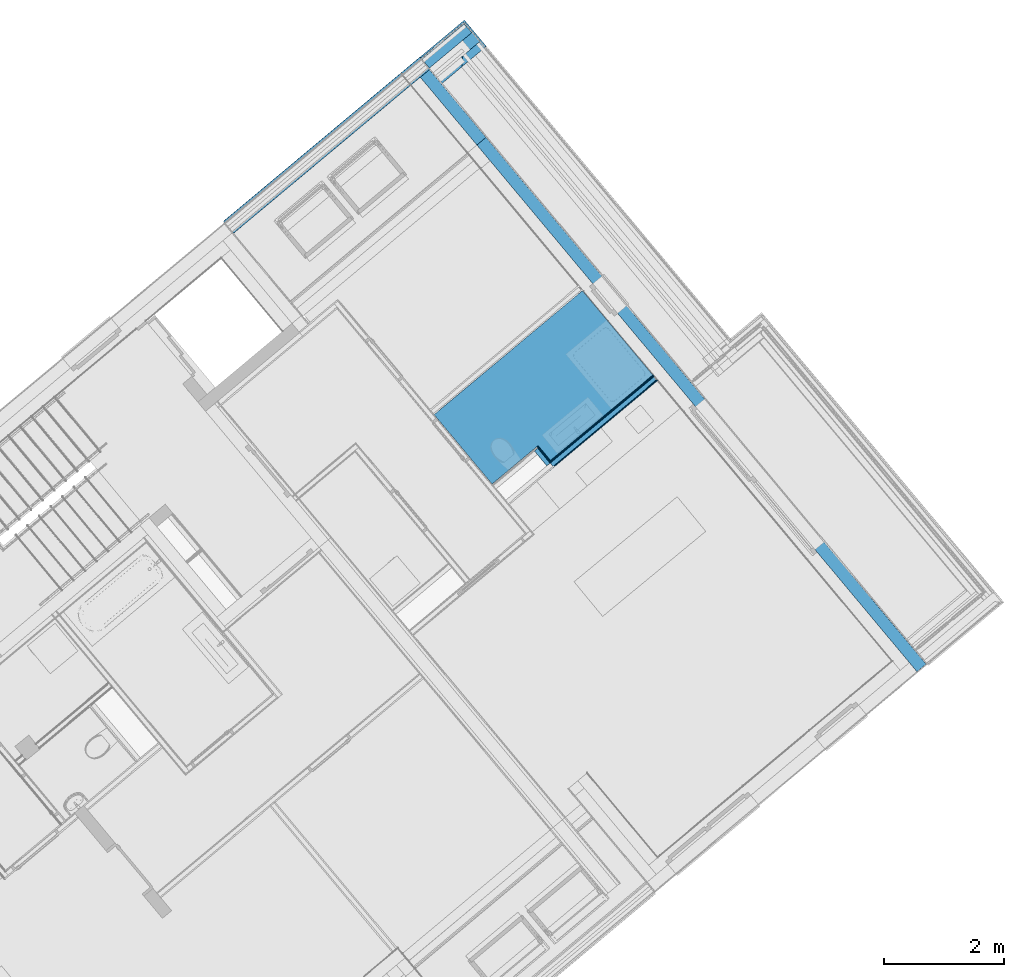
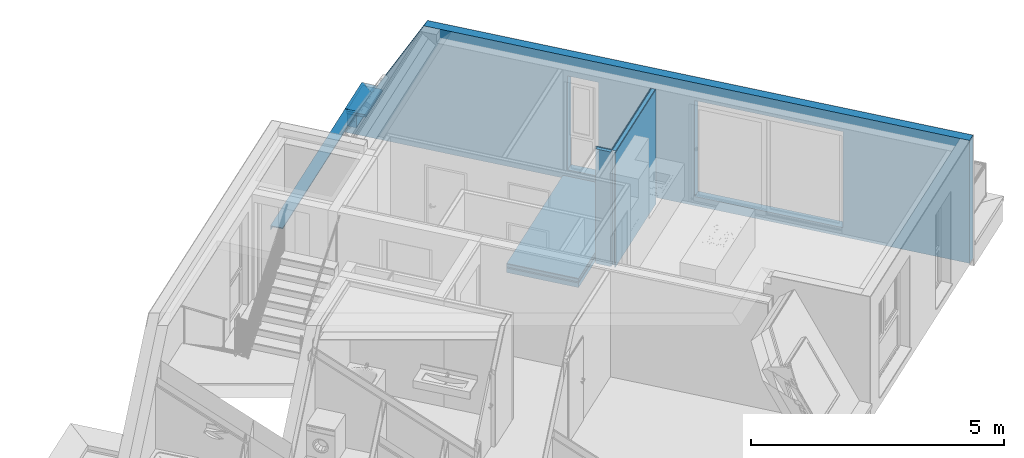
# One storey, part 36 of 58: 18 building element parts, 2 openings, 6 elements without a shape of their own.
"""IFC4 building model written with IfcOpenShell, lengths in metres."""

from ifc_helpers import new_model, entity, si_unit, converted_unit, derived_unit, direction, frame, origin_with_axes, place, context, subcontext, project, spatial, polygons, material, type_object, element, aggregate, save


model = new_model("IFC4")

# Units and contexts
model_context = context("Model", 3, precision=1e-05, world=origin_with_axes(), true_north=direction((0.0, 1.0)))
body_context = subcontext(model_context, "Body", "Model", "MODEL_VIEW")
ifc_project = project(units=[si_unit("LENGTHUNIT", "METRE"), si_unit("AREAUNIT", "SQUARE_METRE"), si_unit("VOLUMEUNIT", "CUBIC_METRE"), converted_unit("PLANEANGLEUNIT", "DEGREE", entity("IfcPlaneAngleMeasure", 0.0174532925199), si_unit("PLANEANGLEUNIT", "RADIAN"), dimensions=[0, 0, 0, 0, 0, 0, 0]), converted_unit("TIMEUNIT", "Year", entity("IfcTimeMeasure", 31556926.0), si_unit("TIMEUNIT", "SECOND"), dimensions=[0, 0, 1, 0, 0, 0, 0]), si_unit("MASSUNIT", "GRAM", prefix="KILO"), si_unit("THERMODYNAMICTEMPERATUREUNIT", "DEGREE_CELSIUS"), si_unit("LUMINOUSINTENSITYUNIT", "LUMEN"), si_unit("ENERGYUNIT", "JOULE", prefix="MEGA"), derived_unit("THERMALCONDUCTANCEUNIT", [(si_unit("POWERUNIT", "WATT"), 1), (si_unit("LENGTHUNIT", "METRE"), -1), (si_unit("THERMODYNAMICTEMPERATUREUNIT", "KELVIN"), -1)]), derived_unit("SPECIFICHEATCAPACITYUNIT", [(si_unit("ENERGYUNIT", "JOULE"), 1), (si_unit("MASSUNIT", "GRAM", prefix="KILO"), -1), (si_unit("THERMODYNAMICTEMPERATUREUNIT", "KELVIN"), -1)]), derived_unit("MASSDENSITYUNIT", [(si_unit("MASSUNIT", "GRAM", prefix="KILO"), 1), (si_unit("VOLUMEUNIT", "CUBIC_METRE"), -1)])], contexts=[model_context])

# Site, building, storey
site_placement = place(None, frame((-0.00153261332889, -0.00661245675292, 0.0), z_axis=(0.0, 0.0, 1.0), x_axis=(1.0, 0.0, 0.0)))
site = spatial("IfcSite", under=ifc_project, at=site_placement, Name="Site", CompositionType="ELEMENT")
building_placement = place(site_placement, origin_with_axes())
building = spatial("IfcBuilding", under=site, at=building_placement, Name="Building", CompositionType="ELEMENT")
storey_placement = place(building_placement, frame((0.0, 0.0, 5.7), z_axis=(0.0, 0.0, 1.0), x_axis=(1.0, 0.0, 0.0)))
storey = spatial("IfcBuildingStorey", under=building, at=storey_placement, Name="DG1", CompositionType="ELEMENT", Elevation=5.7)

# Wall, openings, building element part
wall_type_1 = type_object("IfcWallType", Name="AW EG 420", PredefinedType="NOTDEFINED")
wall_1_placement = place(storey_placement, frame((4.93944032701, 30.401277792, 0.0), z_axis=(0.0, 0.0, 1.0), x_axis=(0.641209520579, -0.767365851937, 0.0)))
wall_1 = element("IfcWall", 1, at=wall_1_placement, inside=storey, type_object=wall_type_1, Name="Wand-002", PredefinedType="NOTDEFINED")
opening_1_placement = place(wall_1_placement, frame((5.05174494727, 0.0, 0.22), z_axis=(0.0, 0.0, 1.0), x_axis=(1.0, 0.0, 0.0)))
element("IfcOpeningElement", 2, at=opening_1_placement, cuts=wall_1, Name="Fenster-001", context=body_context, identifier="Reference", shape_type="Tessellation", body=[
    polygons([(-0.325, -0.215, 0.0), (-0.325, -0.215, 2.26), (-0.325, 6.49162461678, 2.26), (-0.325, 6.49162461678, 0.0), (-0.325, -6.91162461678, 0.0), (-0.325, -6.91162461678, 2.26), (0.325, -0.215, 2.26), (0.325, 6.49162461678, 2.26), (0.325, -6.91162461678, 2.26), (0.325, 6.49162461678, 0.0), (0.325, -0.215, 0.0), (0.325, -6.91162461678, 0.0)], [[[1, 2, 3, 4]], [[2, 1, 5, 6]], [[7, 8, 3, 2, 6, 9]], [[8, 10, 4, 3]], [[1, 4, 10, 11, 12, 5]], [[6, 5, 12, 9]], [[7, 11, 10, 8]], [[11, 7, 9, 12]]], closed=True),
])
opening_2_placement = place(wall_1_placement, frame((8.96052367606, 0.0, 0.22), z_axis=(0.0, 0.0, 1.0), x_axis=(1.0, 0.0, 0.0)))
element("IfcOpeningElement", 3, at=opening_2_placement, cuts=wall_1, Name="Tür-001", context=body_context, identifier="Reference", shape_type="Tessellation", body=[
    polygons([(-1.56, -0.215, 2.31), (1.56, -0.215, 2.31), (1.56, 6.49162461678, 2.31), (-1.56, 6.49162461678, 2.31), (1.61, -0.215, -0.22), (-1.61, -0.215, -0.22), (-1.61, -0.215, 2.36), (1.61, -0.215, 2.36), (1.56, -0.215, 0.0), (-1.56, -0.215, 0.0), (1.56, 6.49162461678, 0.0), (-1.56, 6.49162461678, 0.0), (1.61, -6.91162461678, -0.22), (-1.61, -6.91162461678, -0.22), (-1.61, -6.91162461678, 2.36), (1.61, -6.91162461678, 2.36)], [[[1, 2, 3, 4]], [[5, 6, 7, 8], [9, 2, 1, 10]], [[2, 9, 11, 3]], [[3, 11, 12, 4]], [[10, 1, 4, 12]], [[6, 5, 13, 14]], [[7, 6, 14, 15]], [[8, 7, 15, 16]], [[5, 8, 16, 13]], [[9, 10, 12, 11]], [[15, 14, 13, 16]]], closed=True),
])
ifc_material_1 = material(Name="EPS 1")
building_element_part_1_placement = place(wall_1_placement, origin_with_axes())
building_element_part_1 = element("IfcBuildingElementPart", 4, at=building_element_part_1_placement, material=ifc_material_1, Name="EPS 1", PredefinedType="NOTDEFINED", context=body_context, shape_type="Tessellation", body=[
    polygons([(13.1763326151, -0.215, 0.0), (13.1763326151, -0.215, 2.96), (1.70895679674, -0.215, 2.96), (0.0, -0.215, 0.0), (4.72674494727, -0.215, 2.48), (5.37674494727, -0.215, 2.48), (5.37674494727, -0.215, 0.22), (4.72674494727, -0.215, 0.22), (7.40052367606, -0.215, 0.22), (7.40052367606, -0.215, 2.53), (10.5205236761, -0.215, 2.53), (10.5205236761, -0.215, 0.22), (13.1762023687, -0.015, 0.0), (13.1762023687, -0.015, 2.96), (1.70895679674, -0.015, 2.96), (0.0, -0.015, 0.0), (5.37674494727, -0.015, 2.48), (4.72674494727, -0.015, 2.48), (5.37674494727, -0.015, 0.22), (4.72674494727, -0.015, 0.22), (7.40052367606, -0.015, 0.22), (7.40052367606, -0.015, 2.53), (10.5205236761, -0.015, 2.53), (10.5205236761, -0.015, 0.22)], [[[1, 2, 3, 4], [5, 6, 7, 8], [9, 10, 11, 12]], [[13, 14, 2, 1]], [[2, 14, 15, 3]], [[16, 4, 3, 15]], [[13, 1, 4, 16]], [[17, 6, 5, 18]], [[19, 7, 6, 17]], [[20, 8, 7, 19]], [[18, 5, 8, 20]], [[21, 22, 10, 9]], [[22, 23, 11, 10]], [[23, 24, 12, 11]], [[24, 21, 9, 12]], [[14, 13, 16, 15], [19, 17, 18, 20], [21, 24, 23, 22]]], closed=True),
])
aggregate(wall_1, [building_element_part_1])

# Wall, building element parts
wall_type_2 = type_object("IfcWallType", Name="LB 10,5 cm doppelte Vorsatzschale Bad 105", PredefinedType="NOTDEFINED")
wall_2_placement = place(storey_placement, frame((6.81308887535, 23.8632838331, 0.0), z_axis=(0.0, 0.0, 1.0), x_axis=(0.639370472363, -0.768898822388, 0.0)))
wall_2 = element("IfcWall", 5, at=wall_2_placement, inside=storey, type_object=wall_type_2, Name="Wand-004", PredefinedType="NOTDEFINED")
ifc_material_2 = material(Name="Gipskarton")
building_element_part_2_placement = place(wall_2_placement, origin_with_axes())
building_element_part_2 = element("IfcBuildingElementPart", 6, at=building_element_part_2_placement, material=ifc_material_2, Name="Gipskarton", PredefinedType="NOTDEFINED", context=body_context, shape_type="Tessellation", body=[
    polygons([(0.338014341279, 0.09, 0.0), (0.0, 0.09, 0.0), (0.0, 0.105, 0.0), (0.337978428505, 0.105, 0.0), (0.338014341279, 0.09, 2.76), (0.0, 0.09, 2.76), (0.0, 0.105, 2.76), (0.337978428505, 0.105, 2.76)], [[[1, 2, 3, 4]], [[5, 6, 2, 1]], [[3, 2, 6, 7]], [[4, 3, 7, 8]], [[4, 8, 5, 1]], [[8, 7, 6, 5]]], closed=True),
])
building_element_part_3_placement = place(wall_2_placement, origin_with_axes())
building_element_part_3 = element("IfcBuildingElementPart", 7, at=building_element_part_3_placement, material=ifc_material_2, Name="Gipskarton", PredefinedType="NOTDEFINED", context=body_context, shape_type="Tessellation", body=[
    polygons([(0.353050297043, 0.075, 0.0), (0.0, 0.075, 0.0), (0.0, 0.09, 0.0), (0.35301438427, 0.09, 0.0), (0.353050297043, 0.075, 2.76), (0.0, 0.075, 2.76), (0.0, 0.09, 2.76), (0.35301438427, 0.09, 2.76)], [[[1, 2, 3, 4]], [[5, 6, 2, 1]], [[3, 2, 6, 7]], [[4, 3, 7, 8]], [[4, 8, 5, 1]], [[8, 7, 6, 5]]], closed=True),
])
ifc_material_3 = material(Name="Mineralwolle weich")
building_element_part_4_placement = place(wall_2_placement, origin_with_axes())
building_element_part_4 = element("IfcBuildingElementPart", 8, at=building_element_part_4_placement, material=ifc_material_3, Name="Mineralwolle weich", PredefinedType="NOTDEFINED", context=body_context, shape_type="Tessellation", body=[
    polygons([(0.353050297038, 0.075, 0.0), (0.353229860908, 0.0, 0.0), (0.030000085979, 0.0, 0.0), (0.0298205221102, 0.075, 0.0), (0.353050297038, 0.075, 2.76), (0.353229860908, 0.0, 2.76), (0.030000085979, 0.0, 2.76), (0.0298205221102, 0.075, 2.76)], [[[1, 2, 3, 4]], [[2, 1, 5, 6]], [[2, 6, 7, 3]], [[8, 4, 3, 7]], [[5, 1, 4, 8]], [[6, 5, 8, 7]]], closed=True),
])
aggregate(wall_2, [building_element_part_2, building_element_part_3, building_element_part_4])

wall_type_3 = type_object("IfcWallType", Name="LB 13 cm doppelte Vorsatzschale Bad  120", PredefinedType="NOTDEFINED")
wall_3_placement = place(storey_placement, frame((7.01975244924, 23.6147528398, 0.0), z_axis=(0.0, 0.0, 1.0), x_axis=(0.767365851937, 0.641209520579, 0.0)))
wall_3 = element("IfcWall", 9, at=wall_3_placement, inside=storey, type_object=wall_type_3, Name="Wand-013", PredefinedType="NOTDEFINED")
building_element_part_5_placement = place(wall_3_placement, origin_with_axes())
building_element_part_5 = element("IfcBuildingElementPart", 10, at=building_element_part_5_placement, material=ifc_material_2, Name="Gipskarton", PredefinedType="NOTDEFINED", context=body_context, shape_type="Tessellation", body=[
    polygons([(2.33522392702, 0.0, 0.0), (2.33522392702, -0.015, 0.0), (0.10496438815, -0.015, 0.0), (0.105000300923, 0.0, 0.0), (2.33522392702, 0.0, 2.76), (2.33522392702, -0.015, 2.76), (0.10496438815, -0.015, 2.76), (0.105000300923, 0.0, 2.76)], [[[1, 2, 3, 4]], [[2, 1, 5, 6]], [[2, 6, 7, 3]], [[8, 4, 3, 7]], [[5, 1, 4, 8]], [[6, 5, 8, 7]]], closed=True),
])
building_element_part_6_placement = place(wall_3_placement, origin_with_axes())
building_element_part_6 = element("IfcBuildingElementPart", 11, at=building_element_part_6_placement, material=ifc_material_2, Name="Gipskarton", PredefinedType="NOTDEFINED", context=body_context, shape_type="Tessellation", body=[
    polygons([(2.33522392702, -0.015, 0.0), (2.33522392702, -0.03, 0.0), (0.0899284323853, -0.03, 0.0), (0.0899643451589, -0.015, 0.0), (2.33522392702, -0.015, 2.76), (2.33522392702, -0.03, 2.76), (0.0899284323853, -0.03, 2.76), (0.0899643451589, -0.015, 2.76)], [[[1, 2, 3, 4]], [[2, 1, 5, 6]], [[2, 6, 7, 3]], [[8, 4, 3, 7]], [[5, 1, 4, 8]], [[6, 5, 8, 7]]], closed=True),
])
building_element_part_7_placement = place(wall_3_placement, origin_with_axes())
building_element_part_7 = element("IfcBuildingElementPart", 12, at=building_element_part_7_placement, material=ifc_material_3, Name="Mineralwolle weich", PredefinedType="NOTDEFINED", context=body_context, shape_type="Tessellation", body=[
    polygons([(2.33522392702, -0.03, 0.0), (2.33522392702, -0.105, 0.0), (0.0747488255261, -0.105, 0.0), (0.0749283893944, -0.03, 0.0), (2.33522392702, -0.03, 2.76), (2.33522392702, -0.105, 2.76), (0.0747488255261, -0.105, 2.76), (0.0749283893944, -0.03, 2.76)], [[[1, 2, 3, 4]], [[2, 1, 5, 6]], [[2, 6, 7, 3]], [[8, 4, 3, 7]], [[5, 1, 4, 8]], [[6, 5, 8, 7]]], closed=True),
])
ifc_material_4 = material(Name="Gipsputz")
building_element_part_8_placement = place(wall_3_placement, origin_with_axes())
building_element_part_8 = element("IfcBuildingElementPart", 13, at=building_element_part_8_placement, material=ifc_material_4, Name="Gipsputz", PredefinedType="NOTDEFINED", context=body_context, shape_type="Tessellation", body=[
    polygons([(2.33522392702, -0.105, 0.0), (2.33522392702, -0.12, 0.0), (-0.000287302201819, -0.12, 0.0), (-0.000251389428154, -0.105, 0.0), (2.33522392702, -0.105, 2.76), (2.33522392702, -0.12, 2.76), (-0.000287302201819, -0.12, 2.76), (-0.000251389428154, -0.105, 2.76)], [[[1, 2, 3, 4]], [[2, 1, 5, 6]], [[2, 6, 7, 3]], [[8, 4, 3, 7]], [[5, 1, 4, 8]], [[6, 5, 8, 7]]], closed=True),
])
aggregate(wall_3, [building_element_part_5, building_element_part_6, building_element_part_7, building_element_part_8])

# Covering, building element parts
covering_type = type_object("IfcCoveringType", Name="DE 01 Decke Wohnung/Wohnung Fließen 220", PredefinedType="NOTDEFINED")
covering_placement = place(storey_placement, frame((5.15478771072, 24.448579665, 0.22), z_axis=(0.0, 0.0, 1.0), x_axis=(1.0, 0.0, 0.0)))
covering = element("IfcCovering", 14, at=covering_placement, inside=storey, type_object=covering_type, Name="Decke-001", PredefinedType="NOTDEFINED")
ifc_material_5 = material(Name="Fliesen")
building_element_part_9_placement = place(covering_placement, origin_with_axes())
building_element_part_9 = element("IfcBuildingElementPart", 15, at=building_element_part_9_placement, material=ifc_material_5, Name="Fliesen", PredefinedType="NOTDEFINED", context=body_context, shape_type="Tessellation", body=[
    polygons([(0.969800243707, -1.16060595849, 0.0), (0.969800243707, -1.16060595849, -0.015), (1.71585376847, -0.537204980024, -0.015), (1.71585376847, -0.537204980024, 0.0), (0.0, 0.0, 0.0), (0.0, 0.0, -0.015), (2.47987817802, 2.07218172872, -0.015), (3.65693583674, 0.663540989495, -0.015), (1.94553838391, -0.766499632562, -0.015), (1.75805597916, -0.54103567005, -0.015), (1.75811086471, -0.540989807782, -0.015), (1.73903554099, -0.518161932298, -0.015), (1.71596857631, -0.537343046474, -0.015), (1.71596857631, -0.537343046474, 0.0), (1.73903554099, -0.518161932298, 0.0), (1.75811086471, -0.540989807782, 0.0), (1.75805597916, -0.54103567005, 0.0), (1.94553838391, -0.766499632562, 0.0), (3.65693583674, 0.663540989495, 0.0), (2.47987817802, 2.07218172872, 0.0)], [[[1, 2, 3, 4]], [[2, 1, 5, 6]], [[3, 2, 6, 7, 8, 9, 10, 11, 12, 13]], [[13, 14, 4, 3]], [[1, 4, 14, 15, 16, 17, 18, 19, 20, 5]], [[6, 5, 20, 7]], [[19, 8, 7, 20]], [[18, 9, 8, 19]], [[9, 18, 17, 10]], [[10, 17, 16, 11]], [[16, 15, 12, 11]], [[14, 13, 12, 15]]], closed=True),
])
ifc_material_6 = material(Name="Estrich")
building_element_part_10_placement = place(covering_placement, origin_with_axes())
building_element_part_10 = element("IfcBuildingElementPart", 16, at=building_element_part_10_placement, material=ifc_material_6, Name="Estrich", PredefinedType="NOTDEFINED", context=body_context, shape_type="Tessellation", body=[
    polygons([(0.969800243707, -1.16060595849, -0.015), (0.969800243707, -1.16060595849, -0.08), (1.71585376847, -0.537204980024, -0.08), (1.71585376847, -0.537204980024, -0.015), (0.0, 0.0, -0.015), (0.0, 0.0, -0.08), (2.47987817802, 2.07218172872, -0.08), (3.65693583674, 0.663540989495, -0.08), (1.94553838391, -0.766499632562, -0.08), (1.75805597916, -0.54103567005, -0.08), (1.75811086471, -0.540989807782, -0.08), (1.73903554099, -0.518161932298, -0.08), (1.71596857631, -0.537343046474, -0.08), (1.71596857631, -0.537343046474, -0.015), (1.73903554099, -0.518161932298, -0.015), (1.75811086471, -0.540989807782, -0.015), (1.75805597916, -0.54103567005, -0.015), (1.94553838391, -0.766499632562, -0.015), (3.65693583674, 0.663540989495, -0.015), (2.47987817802, 2.07218172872, -0.015)], [[[1, 2, 3, 4]], [[2, 1, 5, 6]], [[3, 2, 6, 7, 8, 9, 10, 11, 12, 13]], [[13, 14, 4, 3]], [[1, 4, 14, 15, 16, 17, 18, 19, 20, 5]], [[6, 5, 20, 7]], [[19, 8, 7, 20]], [[18, 9, 8, 19]], [[9, 18, 17, 10]], [[10, 17, 16, 11]], [[16, 15, 12, 11]], [[14, 13, 12, 15]]], closed=True),
])
ifc_material_7 = material(Name="Trittschalldämmung")
building_element_part_11_placement = place(covering_placement, origin_with_axes())
building_element_part_11 = element("IfcBuildingElementPart", 17, at=building_element_part_11_placement, material=ifc_material_7, Name="Trittschalldämmung", PredefinedType="NOTDEFINED", context=body_context, shape_type="Tessellation", body=[
    polygons([(0.969800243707, -1.16060595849, -0.08), (0.969800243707, -1.16060595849, -0.11), (1.71585376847, -0.537204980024, -0.11), (1.71585376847, -0.537204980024, -0.08), (0.0, 0.0, -0.08), (0.0, 0.0, -0.11), (2.47987817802, 2.07218172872, -0.11), (3.65693583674, 0.663540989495, -0.11), (1.94553838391, -0.766499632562, -0.11), (1.75805597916, -0.54103567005, -0.11), (1.75811086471, -0.540989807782, -0.11), (1.73903554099, -0.518161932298, -0.11), (1.71596857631, -0.537343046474, -0.11), (1.71596857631, -0.537343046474, -0.08), (1.73903554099, -0.518161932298, -0.08), (1.75811086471, -0.540989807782, -0.08), (1.75805597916, -0.54103567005, -0.08), (1.94553838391, -0.766499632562, -0.08), (3.65693583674, 0.663540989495, -0.08), (2.47987817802, 2.07218172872, -0.08)], [[[1, 2, 3, 4]], [[2, 1, 5, 6]], [[3, 2, 6, 7, 8, 9, 10, 11, 12, 13]], [[13, 14, 4, 3]], [[1, 4, 14, 15, 16, 17, 18, 19, 20, 5]], [[6, 5, 20, 7]], [[19, 8, 7, 20]], [[18, 9, 8, 19]], [[9, 18, 17, 10]], [[10, 17, 16, 11]], [[16, 15, 12, 11]], [[14, 13, 12, 15]]], closed=True),
])
ifc_material_8 = material(Name="Schüttung")
building_element_part_12_placement = place(covering_placement, origin_with_axes())
building_element_part_12 = element("IfcBuildingElementPart", 18, at=building_element_part_12_placement, material=ifc_material_8, Name="Schüttung", PredefinedType="NOTDEFINED", context=body_context, shape_type="Tessellation", body=[
    polygons([(0.969800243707, -1.16060595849, -0.11), (0.969800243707, -1.16060595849, -0.22), (1.71585376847, -0.537204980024, -0.22), (1.71585376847, -0.537204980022, -0.11), (0.0, 0.0, -0.11), (0.0, 0.0, -0.22), (2.47987817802, 2.07218172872, -0.22), (3.65693583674, 0.663540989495, -0.22), (1.94553838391, -0.766499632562, -0.22), (1.75805597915, -0.541035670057, -0.22), (1.75811086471, -0.540989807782, -0.22), (1.73903554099, -0.518161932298, -0.22), (1.71596857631, -0.537343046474, -0.22), (1.71596857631, -0.537343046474, -0.11), (1.73903554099, -0.518161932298, -0.11), (1.75811086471, -0.540989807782, -0.11), (1.75805597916, -0.54103567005, -0.11), (1.94553838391, -0.766499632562, -0.11), (3.65693583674, 0.663540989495, -0.11), (2.47987817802, 2.07218172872, -0.11)], [[[1, 2, 3, 4]], [[2, 1, 5, 6]], [[3, 2, 6, 7, 8, 9, 10, 11, 12, 13]], [[3, 13, 14, 4]], [[1, 4, 14, 15, 16, 17, 18, 19, 20, 5]], [[6, 5, 20, 7]], [[19, 8, 7, 20]], [[18, 9, 8, 19]], [[9, 18, 17, 10]], [[11, 10, 17, 16]], [[12, 11, 16, 15]], [[14, 13, 12, 15]]], closed=True),
])
aggregate(covering, [building_element_part_9, building_element_part_10, building_element_part_11, building_element_part_12])

# Wall, building element parts
wall_type_4 = type_object("IfcWallType", Name="Bauteil - Attika Abschluss wand 264 x 407", PredefinedType="NOTDEFINED")
wall_4_placement = place(storey_placement, frame((5.07730260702, 30.2362960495, -0.2), z_axis=(0.0, 0.0, 1.0), x_axis=(-0.767365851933, -0.641209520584, 0.0)))
wall_4 = element("IfcWall", 19, at=wall_4_placement, inside=storey, type_object=wall_type_4, Name="Wand-002", PredefinedType="NOTDEFINED")
ifc_material_9 = material(Name="Stahl")
building_element_part_13_placement = place(wall_4_placement, origin_with_axes())
building_element_part_13 = element("IfcBuildingElementPart", 20, at=building_element_part_13_placement, material=ifc_material_9, Name="Stahl", PredefinedType="NOTDEFINED", context=body_context, shape_type="Tessellation", body=[
    polygons([(4.2801343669, -0.244007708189, 0.59962516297), (4.2801343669, 0.0197167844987, 0.607483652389), (0.0, 0.0197167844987, 0.607483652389), (0.0, -0.244007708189, 0.59962516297), (4.2801343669, -0.237415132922, 0.499843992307), (4.2801343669, -0.236396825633, 0.498951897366), (4.2801343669, -0.22785172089, 0.508706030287), (4.2801343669, -0.228826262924, 0.509648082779), (4.2801343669, -0.236153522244, 0.501284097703), (4.2801343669, -0.242570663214, 0.598313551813), (4.2801343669, -0.241694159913, 0.598339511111), (4.2801343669, 0.0197570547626, 0.606129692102), (0.0, 0.0197570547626, 0.606129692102), (0.0, -0.241694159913, 0.598339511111), (0.0, -0.242570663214, 0.598313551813), (0.0, -0.236153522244, 0.501284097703), (0.0, -0.228826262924, 0.509648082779), (0.0, -0.22785172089, 0.508706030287), (0.0, -0.236396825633, 0.498951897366), (0.0, -0.237415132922, 0.499843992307)], [[[1, 2, 3, 4]], [[1, 5, 6, 7, 8, 9, 10, 11, 12, 2]], [[2, 12, 13, 3]], [[4, 3, 13, 14, 15, 16, 17, 18, 19, 20]], [[5, 1, 4, 20]], [[6, 5, 20, 19]], [[7, 6, 19, 18]], [[8, 7, 18, 17]], [[9, 8, 17, 16]], [[10, 9, 16, 15]], [[11, 10, 15, 14]], [[12, 11, 14, 13]]], closed=True),
])
ifc_material_10 = material(Name="Holzwerkstoff")
building_element_part_14_placement = place(wall_4_placement, origin_with_axes())
building_element_part_14 = element("IfcBuildingElementPart", 21, at=building_element_part_14_placement, material=ifc_material_10, Name="Holzwerkstoff", PredefinedType="NOTDEFINED", context=body_context, shape_type="Tessellation", body=[
    polygons([(4.2801343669, 0.0203906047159, 0.585743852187), (4.2801343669, -0.0192371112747, 0.584512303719), (0.0, -0.0192371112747, 0.584512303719), (0.0, 0.0203906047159, 0.585743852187), (4.2801343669, 0.0197570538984, 0.606129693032), (4.2801343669, -0.241694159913, 0.598339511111), (4.2801343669, -0.241050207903, 0.577618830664), (4.2801343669, -0.190021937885, 0.579204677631), (4.2801343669, -0.130124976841, 0.581066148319), (4.2801343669, -0.0789260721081, 0.582657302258), (0.0, -0.0789260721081, 0.582657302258), (0.0, -0.130124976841, 0.581066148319), (0.0, -0.190021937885, 0.579204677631), (0.0, -0.241050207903, 0.577618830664), (0.0, -0.241694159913, 0.598339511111), (0.0, 0.0197570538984, 0.606129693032)], [[[1, 2, 3, 4]], [[1, 5, 6, 7, 8, 9, 10, 2]], [[2, 10, 11, 3]], [[4, 3, 11, 12, 13, 14, 15, 16]], [[5, 1, 4, 16]], [[6, 5, 16, 15]], [[7, 6, 15, 14]], [[8, 7, 14, 13]], [[9, 8, 13, 12]], [[10, 9, 12, 11]]], closed=True),
])
aggregate(wall_4, [building_element_part_13, building_element_part_14])

wall_type_5 = type_object("IfcWallType", Name="Bauteil - Attika Terrasse 1.DG 574 x 410", PredefinedType="NOTDEFINED")
wall_5_placement = place(storey_placement, frame((5.07730037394, 30.2362941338, -0.2), z_axis=(0.0, 0.0, 1.0), x_axis=(0.767365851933, 0.641209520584, 0.0)))
wall_5 = element("IfcWall", 22, at=wall_5_placement, inside=storey, type_object=wall_type_5, Name="Wand-002", PredefinedType="NOTDEFINED")
building_element_part_15_placement = place(wall_5_placement, origin_with_axes())
building_element_part_15 = element("IfcBuildingElementPart", 23, at=building_element_part_15_placement, material=ifc_material_1, Name="EPS 1", PredefinedType="NOTDEFINED", context=body_context, shape_type="Tessellation", body=[
    polygons([(0.92319039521, 2.39907649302e-10, 0.498822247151), (0.92319039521, 2.39907649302e-10, 0.499999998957), (0.0, 2.39911202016e-10, 0.499999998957), (0.0, 2.39911202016e-10, 0.2), (0.92319039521, 2.39907649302e-10, 0.2), (0.92319039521, 2.39907649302e-10, 0.335), (0.92319039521, 2.39907649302e-10, 0.488695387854), (0.92319039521, 2.39907649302e-10, 0.49100648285), (0.923189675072, 0.19999996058, 0.499999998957), (0.923189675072, 0.19999996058, 0.498822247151), (0.0, 0.19999996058, 0.499999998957), (0.0, 0.19999996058, 0.2), (0.923189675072, 0.19999996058, 0.2), (0.923189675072, 0.19999996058, 0.335), (0.923189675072, 0.19999996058, 0.488695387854), (0.923189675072, 0.19999996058, 0.49100648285)], [[[1, 2, 3, 4, 5, 6, 7, 8]], [[9, 2, 1, 10]], [[2, 9, 11, 3]], [[4, 3, 11, 12]], [[13, 5, 4, 12]], [[14, 6, 5, 13]], [[15, 7, 6, 14]], [[16, 8, 7, 15]], [[10, 1, 8, 16]], [[9, 10, 16, 15, 14, 13, 12, 11]]], closed=True),
])
ifc_material_11 = material(Name="Brettschichtholz")
building_element_part_16_placement = place(wall_5_placement, origin_with_axes())
building_element_part_16 = element("IfcBuildingElementPart", 24, at=building_element_part_16_placement, material=ifc_material_11, Name="Brettschichtholz", PredefinedType="NOTDEFINED", context=body_context, shape_type="Tessellation", body=[
    polygons([(0.938191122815, -0.200000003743, 0.519224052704), (0.938191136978, -0.200000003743, 0.559999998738), (0.0, -0.200000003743, 0.559999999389), (0.0, -0.200000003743, 0.500000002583), (0.938191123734, -0.200000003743, 0.499999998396), (0.938191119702, -0.200000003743, 0.50905023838), (0.938191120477, -0.200000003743, 0.511361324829), (0.93819099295, -0.159999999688, 0.559999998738), (0.938189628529, 0.214999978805, 0.519224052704), (0.938189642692, 0.214999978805, 0.559999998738), (0.938189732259, 0.190124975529, 0.559999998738), (0.9381899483, 0.130124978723, 0.559999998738), (0.938190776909, -0.100000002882, 0.559999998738), (0.0, -0.159999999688, 0.559999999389), (0.0, 0.130124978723, 0.559999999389), (0.0, 0.190124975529, 0.559999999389), (0.0, 0.214999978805, 0.559999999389), (0.0, 0.214999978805, 0.499999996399), (0.0, -0.100000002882, 0.559999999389), (0.938189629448, 0.214999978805, 0.499999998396), (0.938189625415, 0.214999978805, 0.50905023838), (0.938189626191, 0.214999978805, 0.511361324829)], [[[1, 2, 3, 4, 5, 6, 7]], [[8, 2, 1, 9, 10, 11, 12, 13]], [[2, 8, 14, 3]], [[15, 16, 17, 18, 4, 3, 14, 19]], [[18, 20, 5, 4]], [[21, 6, 5, 20]], [[22, 7, 6, 21]], [[9, 1, 7, 22]], [[10, 9, 22, 21, 20, 18, 17]], [[11, 10, 17, 16]], [[12, 11, 16, 15]], [[13, 12, 15, 19]], [[8, 13, 19, 14]]], closed=True),
])
building_element_part_17_placement = place(wall_5_placement, origin_with_axes())
building_element_part_17 = element("IfcBuildingElementPart", 25, at=building_element_part_17_placement, material=ifc_material_10, Name="Holzwerkstoff", PredefinedType="NOTDEFINED", context=body_context, shape_type="Tessellation", body=[
    polygons([(0.0, -0.329999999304, 0.567947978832), (0.0, -0.160110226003, 0.573880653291), (0.563080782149, -0.160110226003, 0.573880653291), (0.393191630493, -0.329999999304, 0.567947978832), (0.0, -0.330698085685, 0.587938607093), (0.0, 0.239276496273, 0.608570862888), (0.0, 0.239999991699, 0.587852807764), (0.0, 0.189984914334, 0.586106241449), (0.0, 0.130124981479, 0.584015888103), (0.0, -0.100000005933, 0.575979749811), (0.62319079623, -0.100000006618, 0.575979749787), (0.563081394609, -0.330207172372, 0.573880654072), (0.623191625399, -0.330280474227, 0.575979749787), (0.853316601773, -0.330561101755, 0.584015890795), (0.913176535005, -0.33063409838, 0.586106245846), (0.963191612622, -0.33069508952, 0.587852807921), (0.963188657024, -0.330698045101, 0.587937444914), (0.962466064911, 0.239276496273, 0.608570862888), (0.963186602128, 0.239997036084, 0.587937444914), (0.963189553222, 0.239999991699, 0.587852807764), (0.913174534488, 0.189984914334, 0.586106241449), (0.853314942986, 0.130124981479, 0.584015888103)], [[[1, 2, 3, 4]], [[1, 5, 6, 7, 8, 9, 10, 2]], [[2, 10, 11, 3]], [[12, 4, 3]], [[5, 1, 4, 12, 13, 14, 15, 16, 17]], [[6, 5, 17, 18]], [[7, 6, 18, 19, 20]], [[8, 7, 20, 21]], [[9, 8, 21, 22]], [[10, 9, 22, 11]], [[13, 12, 3, 11]], [[14, 13, 11, 22]], [[22, 21, 15, 14]], [[21, 20, 16, 15]], [[20, 19, 17, 16]], [[19, 18, 17]]], closed=True),
])
building_element_part_18_placement = place(wall_5_placement, origin_with_axes())
building_element_part_18 = element("IfcBuildingElementPart", 26, at=building_element_part_18_placement, material=ifc_material_9, Name="Stahl", PredefinedType="NOTDEFINED", context=body_context, shape_type="Tessellation", body=[
    polygons([(0.392097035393, -0.331094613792, 0.488695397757), (0.0, -0.331094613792, 0.488695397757), (0.0, -0.321878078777, 0.497911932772), (0.401313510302, -0.321878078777, 0.497911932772), (0.394408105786, -0.328783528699, 0.49100648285), (0.0, -0.332051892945, 0.489652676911), (0.39305431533, -0.332051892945, 0.489652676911), (0.0, -0.332051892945, 0.589243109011), (0.0, 0.241500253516, 0.610006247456), (0.0, 0.241500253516, 0.510007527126), (0.0, 0.240542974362, 0.509050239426), (0.0, 0.231373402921, 0.518219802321), (0.0, 0.232283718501, 0.519224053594), (0.0, 0.240146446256, 0.51136132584), (0.0, 0.240152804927, 0.608602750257), (0.0, 0.239276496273, 0.608570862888), (0.0, -0.330698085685, 0.587937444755), (0.0, -0.330698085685, 0.491006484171), (0.0, -0.32288233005, 0.498822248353), (0.400309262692, -0.32288233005, 0.498822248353), (0.39440811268, -0.330698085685, 0.491006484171), (0.401313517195, -0.323792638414, 0.497911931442), (0.394408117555, -0.332051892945, 0.49100648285), (0.392493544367, -0.332051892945, 0.491006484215), (0.392493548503, -0.332051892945, 0.498822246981), (0.392493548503, -0.332051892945, 0.499999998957), (0.392493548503, -0.332051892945, 0.50905024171), (0.392493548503, -0.332051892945, 0.511361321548), (0.392493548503, -0.332051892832, 0.519224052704), (0.392493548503, -0.332051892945, 0.559999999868), (0.392493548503, -0.332051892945, 0.567947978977), (0.392493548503, -0.332051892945, 0.573880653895), (0.392493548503, -0.332051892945, 0.575979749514), (0.392493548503, -0.332051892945, 0.584015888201), (0.392493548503, -0.332051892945, 0.586106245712), (0.392493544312, -0.332051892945, 0.587938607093), (0.428530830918, -0.332051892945, 0.589243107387), (0.962466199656, 0.201849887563, 0.608570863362), (0.963342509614, 0.202730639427, 0.608602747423), (0.964689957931, 0.202730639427, 0.608602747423), (0.964689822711, 0.241500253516, 0.610006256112), (0.964689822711, 0.241500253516, 0.510007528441), (0.963732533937, 0.240542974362, 0.50905023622), (0.964689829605, 0.239585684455, 0.510007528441), (0.964689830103, 0.238231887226, 0.511361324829), (0.963336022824, 0.23823188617, 0.511361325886), (0.956477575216, 0.231373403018, 0.518219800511), (0.955473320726, 0.232283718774, 0.519224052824), (0.963336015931, 0.240146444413, 0.511361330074), (0.964689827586, 0.240146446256, 0.51136132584), (0.964689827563, 0.240152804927, 0.608602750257), (0.963342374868, 0.240152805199, 0.608602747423), (0.962466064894, 0.239276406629, 0.608570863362), (0.392493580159, -0.330698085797, 0.587937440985), (0.392493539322, -0.330665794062, 0.587938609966), (0.392493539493, -0.330698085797, 0.491006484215), (0.392493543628, -0.330698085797, 0.586106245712), (0.392493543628, -0.330698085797, 0.584015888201), (0.392493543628, -0.330698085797, 0.575979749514), (0.392493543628, -0.330698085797, 0.573880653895), (0.392493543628, -0.330698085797, 0.567947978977), (0.392493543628, -0.330698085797, 0.559999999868), (0.392493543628, -0.330698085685, 0.519224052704), (0.392493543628, -0.330698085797, 0.511361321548), (0.392493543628, -0.330698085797, 0.50905024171), (0.392493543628, -0.330698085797, 0.499999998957), (0.392493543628, -0.330698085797, 0.498822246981)], [[[1, 2, 3, 4, 5]], [[6, 2, 1, 7]], [[2, 6, 8, 9, 10, 11, 12, 13, 14, 15, 16, 17, 18, 19, 3]], [[3, 19, 20, 4]], [[21, 5, 4, 22]], [[1, 5, 21, 23, 7]], [[8, 6, 7, 23, 24, 25, 26, 27, 28, 29, 30, 31, 32, 33, 34, 35, 36, 37]], [[9, 8, 37, 38, 39, 40, 41]], [[10, 9, 41, 42]], [[11, 10, 42, 43]], [[12, 11, 43, 44, 45, 46, 47]], [[13, 12, 47, 48]], [[14, 13, 48, 49]], [[15, 14, 49, 50, 51, 52]], [[16, 15, 52, 53]], [[54, 17, 16, 53, 55]], [[56, 18, 17, 54, 57, 58, 59, 60, 61, 62, 63, 64, 65, 66, 67]], [[19, 18, 56, 21, 22, 20]], [[4, 20, 22]], [[56, 24, 23, 21]], [[56, 67, 25, 24]], [[25, 67, 66, 26]], [[26, 66, 65, 27]], [[27, 65, 64, 28]], [[29, 28, 64, 63]], [[30, 29, 63, 62]], [[31, 30, 62, 61]], [[32, 31, 61, 60]], [[33, 32, 60, 59]], [[34, 33, 59, 58]], [[35, 34, 58, 57]], [[36, 35, 57, 54]], [[54, 55, 53, 38, 37, 36]], [[38, 53, 52, 39]], [[39, 52, 51, 40]], [[41, 40, 51, 50, 45, 44, 42]], [[44, 43, 42]], [[46, 45, 50, 49]], [[47, 46, 49, 48]]], closed=True),
])
aggregate(wall_5, [building_element_part_15, building_element_part_16, building_element_part_17, building_element_part_18])

save(model, "model.ifc")
